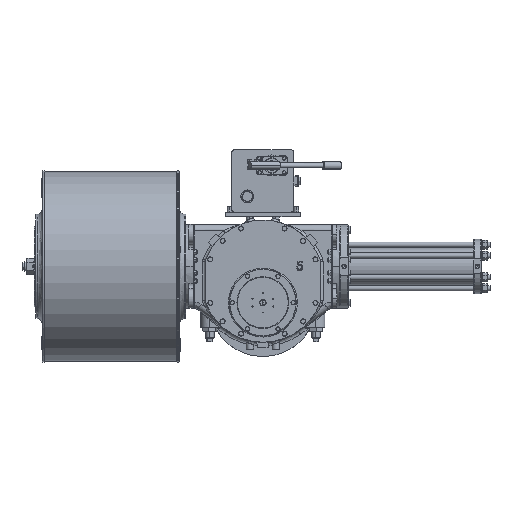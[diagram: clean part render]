
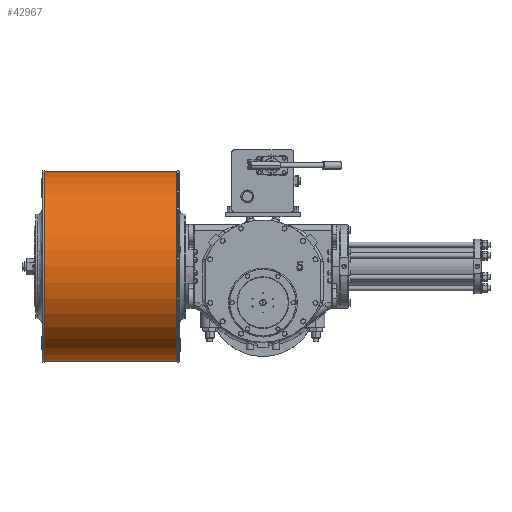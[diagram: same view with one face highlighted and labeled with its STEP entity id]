
A CAD part, top view. The second image highlights one B-rep face of the part: STEP entity #42967.
In plain terms, the highlighted cylindrical face has radius 366 mm (diameter 732 mm), a partial arc.
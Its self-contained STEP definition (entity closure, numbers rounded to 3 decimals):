
#170 = VECTOR ( 'NONE', #112619, 1000. ) ;
#4844 = FACE_OUTER_BOUND ( 'NONE', #100222, .T. ) ;
#4872 = CARTESIAN_POINT ( 'NONE',  ( -842.5, -226., 113. ) ) ;
#10771 = VERTEX_POINT ( 'NONE', #34388 ) ;
#11272 = DIRECTION ( 'NONE',  ( 1., 0., 0. ) ) ;
#11381 = CARTESIAN_POINT ( 'NONE',  ( -842.5, 506., 113. ) ) ;
#14538 = ORIENTED_EDGE ( 'NONE', *, *, #24788, .T. ) ;
#19484 = DIRECTION ( 'NONE',  ( -1., 0., 0. ) ) ;
#24788 = EDGE_CURVE ( 'NONE', #110762, #10771, #26991, .T. ) ;
#26706 = CIRCLE ( 'NONE', #70900, 366. ) ;
#26991 = CIRCLE ( 'NONE', #28816, 366. ) ;
#28362 = EDGE_CURVE ( 'NONE', #10771, #80058, #48100, .T. ) ;
#28816 = AXIS2_PLACEMENT_3D ( 'NONE', #77585, #51080, #50491 ) ;
#29657 = DIRECTION ( 'NONE',  ( 1., 0., 0. ) ) ;
#34388 = CARTESIAN_POINT ( 'NONE',  ( -842.5, -226., 113. ) ) ;
#39998 = DIRECTION ( 'NONE',  ( 0., 1., 0. ) ) ;
#42967 = ADVANCED_FACE ( 'NONE', ( #4844 ), #46394, .T. ) ;
#46394 = CYLINDRICAL_SURFACE ( 'NONE', #81931, 366. ) ;
#47311 = ORIENTED_EDGE ( 'NONE', *, *, #28362, .T. ) ;
#48100 = LINE ( 'NONE', #4872, #86022 ) ;
#50491 = DIRECTION ( 'NONE',  ( 0., 1., 0. ) ) ;
#51080 = DIRECTION ( 'NONE',  ( 1., 0., 0. ) ) ;
#51930 = CARTESIAN_POINT ( 'NONE',  ( -332.5, 140., 113. ) ) ;
#58237 = EDGE_CURVE ( 'NONE', #110762, #99651, #60759, .T. ) ;
#60759 = LINE ( 'NONE', #69376, #170 ) ;
#69376 = CARTESIAN_POINT ( 'NONE',  ( -842.5, 506., 113. ) ) ;
#70900 = AXIS2_PLACEMENT_3D ( 'NONE', #51930, #19484, #100709 ) ;
#77585 = CARTESIAN_POINT ( 'NONE',  ( -842.5, 140., 113. ) ) ;
#80058 = VERTEX_POINT ( 'NONE', #107593 ) ;
#81931 = AXIS2_PLACEMENT_3D ( 'NONE', #91343, #29657, #39998 ) ;
#84504 = EDGE_CURVE ( 'NONE', #80058, #99651, #26706, .T. ) ;
#86022 = VECTOR ( 'NONE', #11272, 1000. ) ;
#91343 = CARTESIAN_POINT ( 'NONE',  ( -842.5, 140., 113. ) ) ;
#95514 = ORIENTED_EDGE ( 'NONE', *, *, #58237, .F. ) ;
#99651 = VERTEX_POINT ( 'NONE', #104163 ) ;
#100222 = EDGE_LOOP ( 'NONE', ( #14538, #47311, #113153, #95514 ) ) ;
#100709 = DIRECTION ( 'NONE',  ( 0., 1., 0. ) ) ;
#104163 = CARTESIAN_POINT ( 'NONE',  ( -332.5, 506., 113. ) ) ;
#107593 = CARTESIAN_POINT ( 'NONE',  ( -332.5, -226., 113. ) ) ;
#110762 = VERTEX_POINT ( 'NONE', #11381 ) ;
#112619 = DIRECTION ( 'NONE',  ( 1., 0., 0. ) ) ;
#113153 = ORIENTED_EDGE ( 'NONE', *, *, #84504, .T. ) ;
